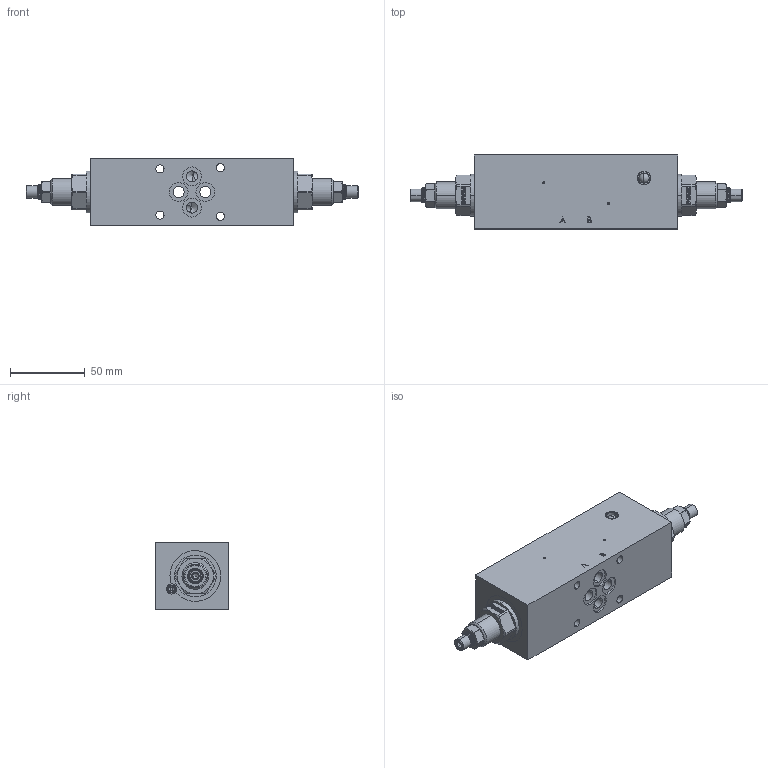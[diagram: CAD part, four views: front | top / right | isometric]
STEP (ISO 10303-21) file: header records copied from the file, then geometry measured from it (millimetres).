
FILE_DESCRIPTION (( 'STEP AP214' ), '1' );
FILE_NAME ('ADRPT6 #1.STEP', '2017-04-10T13:00:15', ( '' ), ( '' ), 'SwSTEP 2.0', 'SolidWorks 2016', '' );
FILE_SCHEMA (( 'AUTOMOTIVE_DESIGN' ));
Length unit declared in the file: millimetre
Products named in the file (1): ADRPT6 #1
Bounding box: 222.4 x 49.5 x 45 mm (x, y, z)
Volume: 312936.6 mm3; surface area: 43164.3 mm2
Topology: 1 solids, 2 shells, 596 faces, 1528 edges, 983 vertices
Faces by surface type: plane 289, cylinder 112, bspline 101, cone 88, sphere 6
Entity records: 30659 total; most frequent: CARTESIAN_POINT 10893, ORIENTED_EDGE 3028, DIRECTION 2472, EDGE_CURVE 1514, VERTEX_POINT 983, VECTOR 824, LINE 824, AXIS2_PLACEMENT_3D 824
